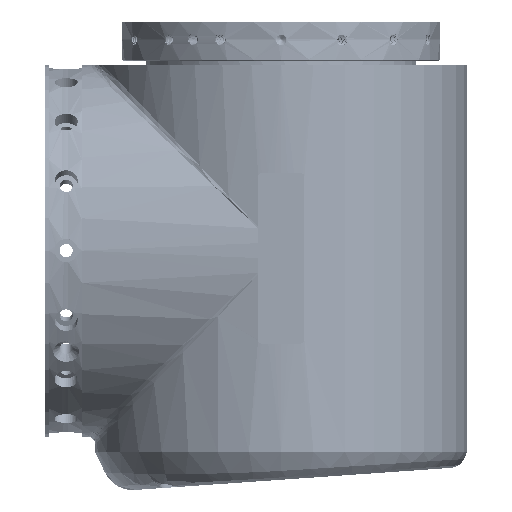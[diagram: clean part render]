
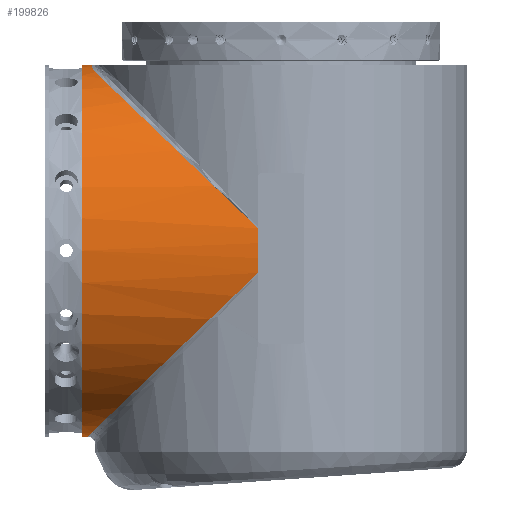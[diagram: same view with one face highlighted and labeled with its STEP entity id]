
A CAD part, left-side view. The second image highlights one B-rep face of the part: STEP entity #199826.
In plain terms, the highlighted cylindrical face has radius 48 mm (diameter 96 mm), a partial arc.
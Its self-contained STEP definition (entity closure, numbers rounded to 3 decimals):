
#354 =( BOUNDED_CURVE ( )  B_SPLINE_CURVE ( 3, ( #230876, #212589, #169943, #2707 ),
 .UNSPECIFIED., .F., .F. ) 
 B_SPLINE_CURVE_WITH_KNOTS ( ( 4, 4 ),
 ( 4.833, 5.999 ),
 .UNSPECIFIED. ) 
 CURVE ( )  GEOMETRIC_REPRESENTATION_ITEM ( )  RATIONAL_B_SPLINE_CURVE ( ( 1., 0.89, 0.89, 1. ) ) 
 REPRESENTATION_ITEM ( '' )  );
#1004 = CYLINDRICAL_SURFACE ( 'NONE', #62676, 48. ) ;
#1159 = ORIENTED_EDGE ( 'NONE', *, *, #53107, .T. ) ;
#2707 = CARTESIAN_POINT ( 'NONE',  ( -13.44, 48., -1.92 ) ) ;
#8145 = VERTEX_POINT ( 'NONE', #163709 ) ;
#8809 = VERTEX_POINT ( 'NONE', #60442 ) ;
#11991 = CARTESIAN_POINT ( 'NONE',  ( 0., -48.001, -96. ) ) ;
#12067 = ORIENTED_EDGE ( 'NONE', *, *, #231884, .T. ) ;
#16187 = CARTESIAN_POINT ( 'NONE',  ( 0., 6., -48. ) ) ;
#17489 = B_SPLINE_CURVE_WITH_KNOTS ( 'NONE', 3,
 ( #20414, #70664, #220715, #206013, #186478, #112074, #38781, #164579, #182917, #52348, #113256, #19217, #126809, #148666 ),
 .UNSPECIFIED., .F., .F.,
 ( 4, 2, 2, 2, 2, 2, 4 ),
 ( 0., 0.003, 0.007, 0.009, 0.01, 0.012, 0.014 ),
 .UNSPECIFIED. ) ;
#18110 = CARTESIAN_POINT ( 'NONE',  ( 0., -48.001, -48. ) ) ;
#19217 = CARTESIAN_POINT ( 'NONE',  ( -1.128, 48.224, -0.01 ) ) ;
#20414 = CARTESIAN_POINT ( 'NONE',  ( -13.44, 48., -1.92 ) ) ;
#20688 = VERTEX_POINT ( 'NONE', #54678 ) ;
#27593 = CARTESIAN_POINT ( 'NONE',  ( -47.653, 6., -53.76 ) ) ;
#30802 = ORIENTED_EDGE ( 'NONE', *, *, #84125, .T. ) ;
#31254 = CARTESIAN_POINT ( 'NONE',  ( -47.653, 6., -42.24 ) ) ;
#38781 = CARTESIAN_POINT ( 'NONE',  ( -5.673, 48.779, -0.333 ) ) ;
#45957 = CARTESIAN_POINT ( 'NONE',  ( 0., 50., -96. ) ) ;
#52042 = CARTESIAN_POINT ( 'NONE',  ( 0., -48.001, 0. ) ) ;
#52348 = CARTESIAN_POINT ( 'NONE',  ( -2.827, 48.498, -0.08 ) ) ;
#53107 = EDGE_CURVE ( 'NONE', #8145, #137725, #127697, .T. ) ;
#53804 = CARTESIAN_POINT ( 'NONE',  ( 0., 51.5, -48. ) ) ;
#54678 = CARTESIAN_POINT ( 'NONE',  ( -47.653, 6., -53.76 ) ) ;
#55789 = AXIS2_PLACEMENT_3D ( 'NONE', #16187, #239583, #146842 ) ;
#60442 = CARTESIAN_POINT ( 'NONE',  ( 0., 50., -96. ) ) ;
#62676 = AXIS2_PLACEMENT_3D ( 'NONE', #18110, #148741, #202499 ) ;
#68537 = CARTESIAN_POINT ( 'NONE',  ( 0., 51.5, 0. ) ) ;
#69429 = LINE ( 'NONE', #11991, #213855 ) ;
#70664 = CARTESIAN_POINT ( 'NONE',  ( -12.375, 48.324, -1.609 ) ) ;
#80710 = ORIENTED_EDGE ( 'NONE', *, *, #131638, .T. ) ;
#84125 = EDGE_CURVE ( 'NONE', #195337, #8145, #17489, .T. ) ;
#94518 = AXIS2_PLACEMENT_3D ( 'NONE', #53804, #200317, #164849 ) ;
#103231 = VERTEX_POINT ( 'NONE', #159443 ) ;
#103311 = VERTEX_POINT ( 'NONE', #31254 ) ;
#112074 = CARTESIAN_POINT ( 'NONE',  ( -6.239, 48.806, -0.404 ) ) ;
#113256 = CARTESIAN_POINT ( 'NONE',  ( -2.26, 48.414, -0.05 ) ) ;
#120415 = CARTESIAN_POINT ( 'NONE',  ( -25.506, 50., -96. ) ) ;
#123506 = ORIENTED_EDGE ( 'NONE', *, *, #202510, .F. ) ;
#125034 = CARTESIAN_POINT ( 'NONE',  ( -13.44, 48., -1.92 ) ) ;
#126809 = CARTESIAN_POINT ( 'NONE',  ( -0.565, 48.117, 0. ) ) ;
#127697 = LINE ( 'NONE', #52042, #185848 ) ;
#128869 = DIRECTION ( 'NONE',  ( 0., 1., 0. ) ) ;
#131638 = EDGE_CURVE ( 'NONE', #8809, #20688, #144977, .T. ) ;
#137725 = VERTEX_POINT ( 'NONE', #68537 ) ;
#141542 = CIRCLE ( 'NONE', #55789, 48. ) ;
#144977 =( BOUNDED_CURVE ( )  B_SPLINE_CURVE ( 3, ( #45957, #120415, #194833, #27593 ),
 .UNSPECIFIED., .F., .F. ) 
 B_SPLINE_CURVE_WITH_KNOTS ( ( 4, 4 ),
 ( 0., 1.451 ),
 .UNSPECIFIED. ) 
 CURVE ( )  GEOMETRIC_REPRESENTATION_ITEM ( )  RATIONAL_B_SPLINE_CURVE ( ( 1., 0.832, 0.832, 1. ) ) 
 REPRESENTATION_ITEM ( '' )  );
#146842 = DIRECTION ( 'NONE',  ( 0., 0., 1. ) ) ;
#148666 = CARTESIAN_POINT ( 'NONE',  ( 0., 48., 0. ) ) ;
#148741 = DIRECTION ( 'NONE',  ( 0., 1., 0. ) ) ;
#149026 = CIRCLE ( 'NONE', #94518, 48. ) ;
#159443 = CARTESIAN_POINT ( 'NONE',  ( 0., 51.5, -96. ) ) ;
#163709 = CARTESIAN_POINT ( 'NONE',  ( 0., 48., 0. ) ) ;
#164579 = CARTESIAN_POINT ( 'NONE',  ( -4.536, 48.695, -0.211 ) ) ;
#164849 = DIRECTION ( 'NONE',  ( 0., 0., -1. ) ) ;
#169943 = CARTESIAN_POINT ( 'NONE',  ( -32.458, 42.222, -7.467 ) ) ;
#181695 = DIRECTION ( 'NONE',  ( 0., 1., 0. ) ) ;
#182917 = CARTESIAN_POINT ( 'NONE',  ( -3.965, 48.638, -0.161 ) ) ;
#185848 = VECTOR ( 'NONE', #128869, 1000. ) ;
#186478 = CARTESIAN_POINT ( 'NONE',  ( -7.931, 48.837, -0.646 ) ) ;
#194833 = CARTESIAN_POINT ( 'NONE',  ( -44.592, 32.376, -79.081 ) ) ;
#195337 = VERTEX_POINT ( 'NONE', #125034 ) ;
#199826 = ADVANCED_FACE ( 'NONE', ( #220784 ), #1004, .T. ) ;
#200317 = DIRECTION ( 'NONE',  ( 0., 1., 0. ) ) ;
#202499 = DIRECTION ( 'NONE',  ( 0., 0., -1. ) ) ;
#202510 = EDGE_CURVE ( 'NONE', #103311, #20688, #141542, .T. ) ;
#206013 = CARTESIAN_POINT ( 'NONE',  ( -9.05, 48.793, -0.847 ) ) ;
#206897 = EDGE_CURVE ( 'NONE', #8809, #103231, #69429, .T. ) ;
#212589 = CARTESIAN_POINT ( 'NONE',  ( -45.276, 26.487, -22.572 ) ) ;
#213855 = VECTOR ( 'NONE', #181695, 1000. ) ;
#215395 = EDGE_LOOP ( 'NONE', ( #30802, #1159, #241329, #231295, #80710, #123506, #12067 ) ) ;
#220715 = CARTESIAN_POINT ( 'NONE',  ( -11.269, 48.537, -1.328 ) ) ;
#220784 = FACE_OUTER_BOUND ( 'NONE', #215395, .T. ) ;
#230876 = CARTESIAN_POINT ( 'NONE',  ( -47.653, 6., -42.24 ) ) ;
#231295 = ORIENTED_EDGE ( 'NONE', *, *, #206897, .F. ) ;
#231884 = EDGE_CURVE ( 'NONE', #103311, #195337, #354, .T. ) ;
#232162 = EDGE_CURVE ( 'NONE', #103231, #137725, #149026, .T. ) ;
#239583 = DIRECTION ( 'NONE',  ( 0., -1., 0. ) ) ;
#241329 = ORIENTED_EDGE ( 'NONE', *, *, #232162, .F. ) ;
